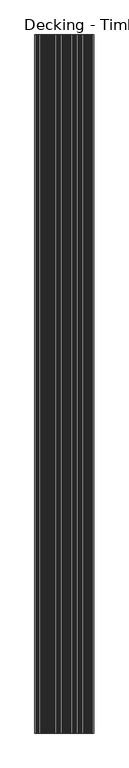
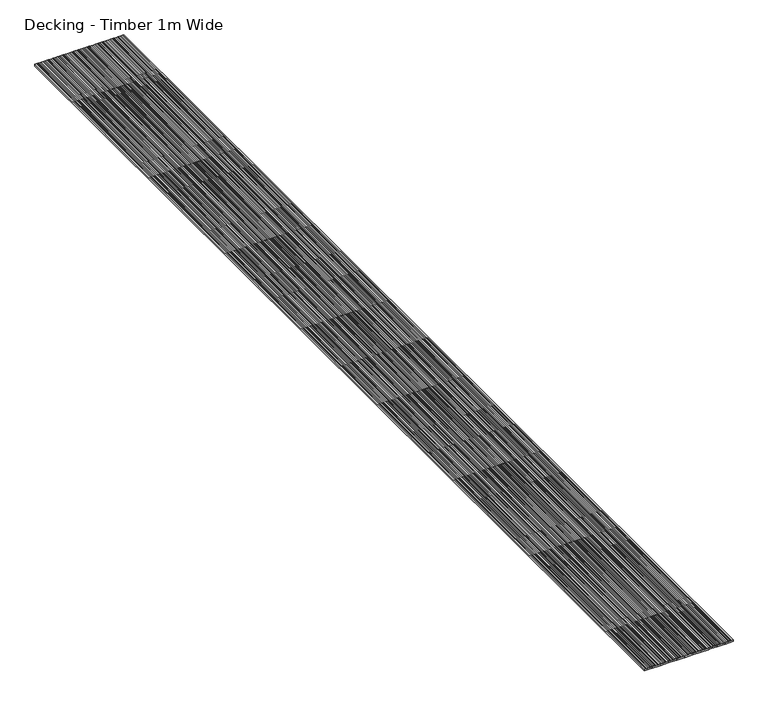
"""IFC4 building model written with IfcOpenShell, lengths in millimetres: railing geometry, Decking - Timber 1m Wide."""

from ifc_helpers import new_model, si_unit, frame, origin, place, context, project, spatial, polyline, outline, extrude, source, transform, mapped, element, save


def decking_timber_1m_wide_9c9b48e4(model_context):
    return source(origin(), model_context, "Body", "SweptSolid", [
        extrude(outline(polyline([(0.0, 53355.4324334), (25.0, 53355.4324334), (25.0, 53339.4324334), (21.0, 53339.4324334), (21.0, 53334.4324334), (25.0, 53334.4324334), (25.0, 53324.4324334), (21.0, 53324.4324334), (21.0, 53319.4324334), (25.0, 53319.4324334), (25.0, 53309.4324334), (21.0, 53309.4324334), (21.0, 53304.4324334), (25.0, 53304.4324334), (25.0, 53294.4324334), (21.0, 53294.4324334), (21.0, 53289.4324334), (25.0, 53289.4324334), (25.0, 53279.4324334), (21.0, 53279.4324334), (21.0, 53274.4324334), (25.0, 53274.4324334), (25.0, 53258.4324334), (0.0, 53258.4324334), (0.0, 53355.4324334)])), frame((0.0, -56479.0868221, 0.0), z_axis=(0.0, 1.0, 0.0), x_axis=(0.0, 0.0, 1.0)), (0.0, 0.0, 1.0), 13000.0),
        extrude(outline(polyline([(0.0, 53455.4324334), (25.0, 53455.4324334), (25.0, 53439.4324334), (21.0, 53439.4324334), (21.0, 53434.4324334), (25.0, 53434.4324334), (25.0, 53424.4324334), (21.0, 53424.4324334), (21.0, 53419.4324334), (25.0, 53419.4324334), (25.0, 53409.4324334), (21.0, 53409.4324334), (21.0, 53404.4324334), (25.0, 53404.4324334), (25.0, 53394.4324334), (21.0, 53394.4324334), (21.0, 53389.4324334), (25.0, 53389.4324334), (25.0, 53379.4324334), (21.0, 53379.4324334), (21.0, 53374.4324334), (25.0, 53374.4324334), (25.0, 53358.4324334), (0.0, 53358.4324334), (0.0, 53455.4324334)])), frame((0.0, -56479.0868221, 0.0), z_axis=(0.0, 1.0, 0.0), x_axis=(0.0, 0.0, 1.0)), (0.0, 0.0, 1.0), 13000.0),
        extrude(outline(polyline([(0.0, 53555.4324334), (25.0, 53555.4324334), (25.0, 53539.4324334), (21.0, 53539.4324334), (21.0, 53534.4324334), (25.0, 53534.4324334), (25.0, 53524.4324334), (21.0, 53524.4324334), (21.0, 53519.4324334), (25.0, 53519.4324334), (25.0, 53509.4324334), (21.0, 53509.4324334), (21.0, 53504.4324334), (25.0, 53504.4324334), (25.0, 53494.4324334), (21.0, 53494.4324334), (21.0, 53489.4324334), (25.0, 53489.4324334), (25.0, 53479.4324334), (21.0, 53479.4324334), (21.0, 53474.4324334), (25.0, 53474.4324334), (25.0, 53458.4324334), (0.0, 53458.4324334), (0.0, 53555.4324334)])), frame((0.0, -56479.0868221, 0.0), z_axis=(0.0, 1.0, 0.0), x_axis=(0.0, 0.0, 1.0)), (0.0, 0.0, 1.0), 13000.0),
        extrude(outline(polyline([(0.0, 53655.4324334), (25.0, 53655.4324334), (25.0, 53639.4324334), (21.0, 53639.4324334), (21.0, 53634.4324334), (25.0, 53634.4324334), (25.0, 53624.4324334), (21.0, 53624.4324334), (21.0, 53619.4324334), (25.0, 53619.4324334), (25.0, 53609.4324334), (21.0, 53609.4324334), (21.0, 53604.4324334), (25.0, 53604.4324334), (25.0, 53594.4324334), (21.0, 53594.4324334), (21.0, 53589.4324334), (25.0, 53589.4324334), (25.0, 53579.4324334), (21.0, 53579.4324334), (21.0, 53574.4324334), (25.0, 53574.4324334), (25.0, 53558.4324334), (0.0, 53558.4324334), (0.0, 53655.4324334)])), frame((0.0, -56479.0868221, 0.0), z_axis=(0.0, 1.0, 0.0), x_axis=(0.0, 0.0, 1.0)), (0.0, 0.0, 1.0), 13000.0),
        extrude(outline(polyline([(0.0, 53755.4324334), (25.0, 53755.4324334), (25.0, 53739.4324334), (21.0, 53739.4324334), (21.0, 53734.4324334), (25.0, 53734.4324334), (25.0, 53724.4324334), (21.0, 53724.4324334), (21.0, 53719.4324334), (25.0, 53719.4324334), (25.0, 53709.4324334), (21.0, 53709.4324334), (21.0, 53704.4324334), (25.0, 53704.4324334), (25.0, 53694.4324334), (21.0, 53694.4324334), (21.0, 53689.4324334), (25.0, 53689.4324334), (25.0, 53679.4324334), (21.0, 53679.4324334), (21.0, 53674.4324334), (25.0, 53674.4324334), (25.0, 53658.4324334), (0.0, 53658.4324334), (0.0, 53755.4324334)])), frame((0.0, -56479.0868221, 0.0), z_axis=(0.0, 1.0, 0.0), x_axis=(0.0, 0.0, 1.0)), (0.0, 0.0, 1.0), 13000.0),
        extrude(outline(polyline([(0.0, 53855.4324334), (25.0, 53855.4324334), (25.0, 53839.4324334), (21.0, 53839.4324334), (21.0, 53834.4324334), (25.0, 53834.4324334), (25.0, 53824.4324334), (21.0, 53824.4324334), (21.0, 53819.4324334), (25.0, 53819.4324334), (25.0, 53809.4324334), (21.0, 53809.4324334), (21.0, 53804.4324334), (25.0, 53804.4324334), (25.0, 53794.4324334), (21.0, 53794.4324334), (21.0, 53789.4324334), (25.0, 53789.4324334), (25.0, 53779.4324334), (21.0, 53779.4324334), (21.0, 53774.4324334), (25.0, 53774.4324334), (25.0, 53758.4324334), (0.0, 53758.4324334), (0.0, 53855.4324334)])), frame((0.0, -56479.0868221, 0.0), z_axis=(0.0, 1.0, 0.0), x_axis=(0.0, 0.0, 1.0)), (0.0, 0.0, 1.0), 13000.0),
        extrude(outline(polyline([(0.0, 53955.4324334), (25.0, 53955.4324334), (25.0, 53939.4324334), (21.0, 53939.4324334), (21.0, 53934.4324334), (25.0, 53934.4324334), (25.0, 53924.4324334), (21.0, 53924.4324334), (21.0, 53919.4324334), (25.0, 53919.4324334), (25.0, 53909.4324334), (21.0, 53909.4324334), (21.0, 53904.4324334), (25.0, 53904.4324334), (25.0, 53894.4324334), (21.0, 53894.4324334), (21.0, 53889.4324334), (25.0, 53889.4324334), (25.0, 53879.4324334), (21.0, 53879.4324334), (21.0, 53874.4324334), (25.0, 53874.4324334), (25.0, 53858.4324334), (0.0, 53858.4324334), (0.0, 53955.4324334)])), frame((0.0, -56479.0868221, 0.0), z_axis=(0.0, 1.0, 0.0), x_axis=(0.0, 0.0, 1.0)), (0.0, 0.0, 1.0), 13000.0),
        extrude(outline(polyline([(0.0, 54055.4324334), (25.0, 54055.4324334), (25.0, 54039.4324334), (21.0, 54039.4324334), (21.0, 54034.4324334), (25.0, 54034.4324334), (25.0, 54024.4324334), (21.0, 54024.4324334), (21.0, 54019.4324334), (25.0, 54019.4324334), (25.0, 54009.4324334), (21.0, 54009.4324334), (21.0, 54004.4324334), (25.0, 54004.4324334), (25.0, 53994.4324334), (21.0, 53994.4324334), (21.0, 53989.4324334), (25.0, 53989.4324334), (25.0, 53979.4324334), (21.0, 53979.4324334), (21.0, 53974.4324334), (25.0, 53974.4324334), (25.0, 53958.4324334), (0.0, 53958.4324334), (0.0, 54055.4324334)])), frame((0.0, -56479.0868221, 0.0), z_axis=(0.0, 1.0, 0.0), x_axis=(0.0, 0.0, 1.0)), (0.0, 0.0, 1.0), 13000.0),
        extrude(outline(polyline([(0.0, 54155.4324334), (25.0, 54155.4324334), (25.0, 54139.4324334), (21.0, 54139.4324334), (21.0, 54134.4324334), (25.0, 54134.4324334), (25.0, 54124.4324334), (21.0, 54124.4324334), (21.0, 54119.4324334), (25.0, 54119.4324334), (25.0, 54109.4324334), (21.0, 54109.4324334), (21.0, 54104.4324334), (25.0, 54104.4324334), (25.0, 54094.4324334), (21.0, 54094.4324334), (21.0, 54089.4324334), (25.0, 54089.4324334), (25.0, 54079.4324334), (21.0, 54079.4324334), (21.0, 54074.4324334), (25.0, 54074.4324334), (25.0, 54058.4324334), (0.0, 54058.4324334), (0.0, 54155.4324334)])), frame((0.0, -56479.0868221, 0.0), z_axis=(0.0, 1.0, 0.0), x_axis=(0.0, 0.0, 1.0)), (0.0, 0.0, 1.0), 13000.0),
        extrude(outline(polyline([(0.0, 54255.4324334), (25.0, 54255.4324334), (25.0, 54239.4324334), (21.0, 54239.4324334), (21.0, 54234.4324334), (25.0, 54234.4324334), (25.0, 54224.4324334), (21.0, 54224.4324334), (21.0, 54219.4324334), (25.0, 54219.4324334), (25.0, 54209.4324334), (21.0, 54209.4324334), (21.0, 54204.4324334), (25.0, 54204.4324334), (25.0, 54194.4324334), (21.0, 54194.4324334), (21.0, 54189.4324334), (25.0, 54189.4324334), (25.0, 54179.4324334), (21.0, 54179.4324334), (21.0, 54174.4324334), (25.0, 54174.4324334), (25.0, 54158.4324334), (0.0, 54158.4324334), (0.0, 54255.4324334)])), frame((0.0, -56479.0868221, 0.0), z_axis=(0.0, 1.0, 0.0), x_axis=(0.0, 0.0, 1.0)), (0.0, 0.0, 1.0), 13000.0),
        extrude(outline(polyline([(0.0, 54355.4324334), (25.0, 54355.4324334), (25.0, 54339.4324334), (21.0, 54339.4324334), (21.0, 54334.4324334), (25.0, 54334.4324334), (25.0, 54324.4324334), (21.0, 54324.4324334), (21.0, 54319.4324334), (25.0, 54319.4324334), (25.0, 54309.4324334), (21.0, 54309.4324334), (21.0, 54304.4324334), (25.0, 54304.4324334), (25.0, 54294.4324334), (21.0, 54294.4324334), (21.0, 54289.4324334), (25.0, 54289.4324334), (25.0, 54279.4324334), (21.0, 54279.4324334), (21.0, 54274.4324334), (25.0, 54274.4324334), (25.0, 54258.4324334), (0.0, 54258.4324334), (0.0, 54355.4324334)])), frame((0.0, -56479.0868221, 0.0), z_axis=(0.0, 1.0, 0.0), x_axis=(0.0, 0.0, 1.0)), (0.0, 0.0, 1.0), 13000.0),
    ])


if __name__ == "__main__":
    model = new_model("IFC4")
    model_context = context("Model", 3, world=origin())
    ifc_project = project(units=[si_unit("LENGTHUNIT", "METRE", prefix="MILLI")], contexts=[model_context])
    site = spatial("IfcSite", under=ifc_project)
    building = spatial("IfcBuilding", under=site)
    placement = place(None, origin())
    decking_timber_1m_wide_shape = decking_timber_1m_wide_9c9b48e4(model_context)
    element("IfcRailing", 1, ObjectType="Decking - Timber 1m Wide", at=placement, inside=building, context=model_context, shape_type="MappedRepresentation", body=[
        mapped(decking_timber_1m_wide_shape, transform((0.0, 0.0, 0.0), x_axis=(1.0, 0.0, 0.0), y_axis=(0.0, 1.0, 0.0), z_axis=(0.0, 0.0, 1.0))),
    ])
    save(model, "model.ifc")
